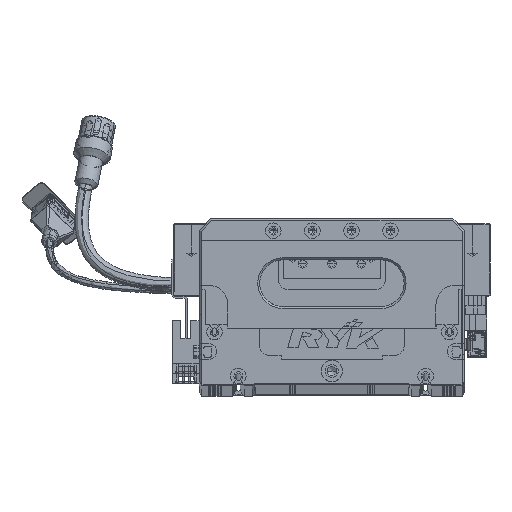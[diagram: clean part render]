
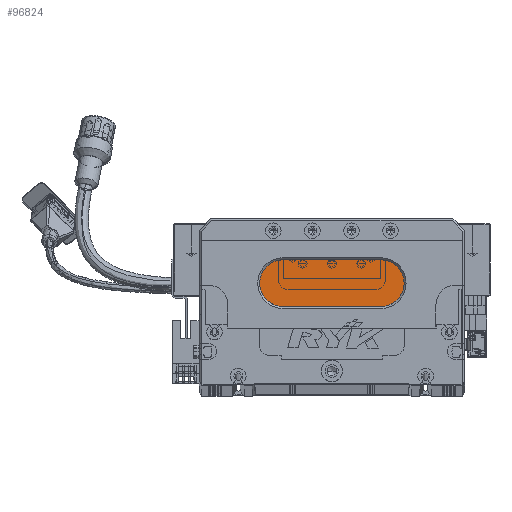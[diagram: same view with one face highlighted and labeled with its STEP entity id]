
A CAD part, top view. The second image highlights one B-rep face of the part: STEP entity #96824.
In plain terms, the highlighted planar face has unit normal (0, 0, 1) as drawn and (0, 0, -1) by its records, which use the part's own axes.
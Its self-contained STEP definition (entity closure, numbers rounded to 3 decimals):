
#2678 = DIRECTION ( 'NONE',  ( 0., 0., -1. ) ) ;
#4673 = EDGE_CURVE ( 'NONE', #7632, #139579, #67345, .T. ) ;
#5842 = AXIS2_PLACEMENT_3D ( 'NONE', #129895, #63263, #19765 ) ;
#7632 = VERTEX_POINT ( 'NONE', #14390 ) ;
#14114 = ORIENTED_EDGE ( 'NONE', *, *, #56425, .T. ) ;
#14390 = CARTESIAN_POINT ( 'NONE',  ( 93., 40., 13. ) ) ;
#15647 = VERTEX_POINT ( 'NONE', #52864 ) ;
#19017 = VECTOR ( 'NONE', #19760, 1000. ) ;
#19760 = DIRECTION ( 'NONE',  ( 1., 0., 0. ) ) ;
#19765 = DIRECTION ( 'NONE',  ( -1., 0., 0. ) ) ;
#19800 = CIRCLE ( 'NONE', #5842, 12. ) ;
#20524 = DIRECTION ( 'NONE',  ( -1., 0., 0. ) ) ;
#21397 = EDGE_CURVE ( 'NONE', #139579, #58563, #121543, .T. ) ;
#22450 = CARTESIAN_POINT ( 'NONE',  ( 43., 52., 13. ) ) ;
#23685 = ORIENTED_EDGE ( 'NONE', *, *, #4673, .T. ) ;
#23686 = PLANE ( 'NONE',  #137906 ) ;
#24895 = FACE_OUTER_BOUND ( 'NONE', #107676, .T. ) ;
#33517 = DIRECTION ( 'NONE',  ( -1., 0., 0. ) ) ;
#35468 = DIRECTION ( 'NONE',  ( -1., 0., 0. ) ) ;
#40138 = CIRCLE ( 'NONE', #111996, 12. ) ;
#43712 = CARTESIAN_POINT ( 'NONE',  ( 93., 64., 13. ) ) ;
#48950 = ORIENTED_EDGE ( 'NONE', *, *, #21397, .T. ) ;
#49388 = CARTESIAN_POINT ( 'NONE',  ( 93., 40., 13. ) ) ;
#52864 = CARTESIAN_POINT ( 'NONE',  ( 93., 64., 13. ) ) ;
#52954 = CARTESIAN_POINT ( 'NONE',  ( 43., 40., 13. ) ) ;
#56425 = EDGE_CURVE ( 'NONE', #15647, #7632, #19800, .T. ) ;
#58563 = VERTEX_POINT ( 'NONE', #73493 ) ;
#60531 = EDGE_CURVE ( 'NONE', #63599, #15647, #104788, .T. ) ;
#63263 = DIRECTION ( 'NONE',  ( 0., 0., -1. ) ) ;
#63599 = VERTEX_POINT ( 'NONE', #109758 ) ;
#67345 = LINE ( 'NONE', #49388, #111257 ) ;
#68494 = EDGE_CURVE ( 'NONE', #58563, #63599, #40138, .T. ) ;
#73493 = CARTESIAN_POINT ( 'NONE',  ( 31., 52., 13. ) ) ;
#91726 = CARTESIAN_POINT ( 'NONE',  ( 43., 52., 13. ) ) ;
#96824 = ADVANCED_FACE ( 'NONE', ( #24895 ), #23686, .T. ) ;
#100171 = ORIENTED_EDGE ( 'NONE', *, *, #60531, .T. ) ;
#100245 = DIRECTION ( 'NONE',  ( 0., 0., -1. ) ) ;
#103346 = AXIS2_PLACEMENT_3D ( 'NONE', #91726, #2678, #35468 ) ;
#104745 = DIRECTION ( 'NONE',  ( -1., 0., 0. ) ) ;
#104788 = LINE ( 'NONE', #43712, #19017 ) ;
#107676 = EDGE_LOOP ( 'NONE', ( #14114, #23685, #48950, #113181, #100171 ) ) ;
#109758 = CARTESIAN_POINT ( 'NONE',  ( 43., 64., 13. ) ) ;
#111257 = VECTOR ( 'NONE', #104745, 1000. ) ;
#111851 = DIRECTION ( 'NONE',  ( 0., 0., -1. ) ) ;
#111996 = AXIS2_PLACEMENT_3D ( 'NONE', #22450, #100245, #20524 ) ;
#113181 = ORIENTED_EDGE ( 'NONE', *, *, #68494, .T. ) ;
#121543 = CIRCLE ( 'NONE', #103346, 12. ) ;
#129895 = CARTESIAN_POINT ( 'NONE',  ( 93., 52., 13. ) ) ;
#133769 = CARTESIAN_POINT ( 'NONE',  ( 93., 52., 13. ) ) ;
#137906 = AXIS2_PLACEMENT_3D ( 'NONE', #133769, #111851, #33517 ) ;
#139579 = VERTEX_POINT ( 'NONE', #52954 ) ;
